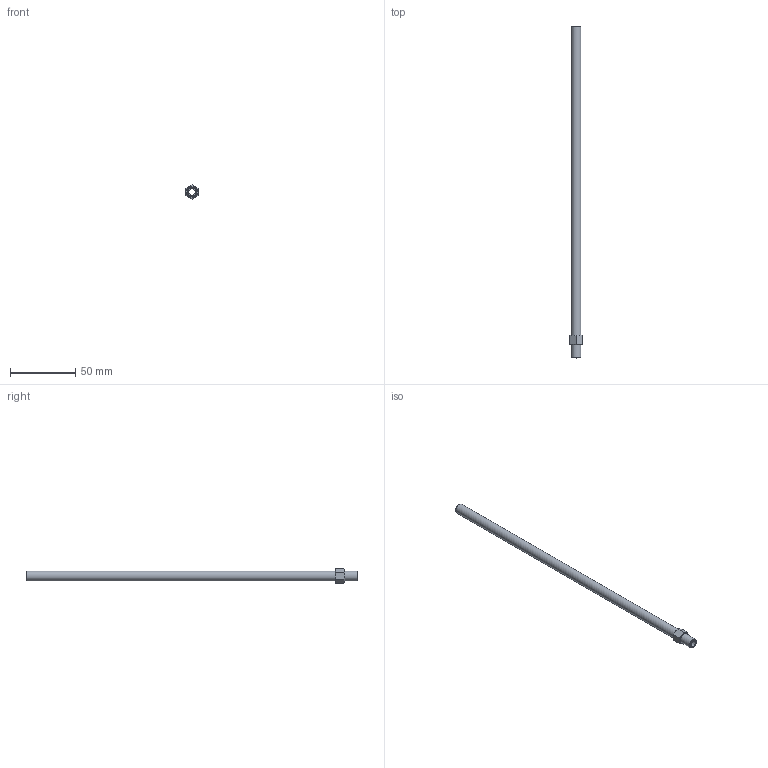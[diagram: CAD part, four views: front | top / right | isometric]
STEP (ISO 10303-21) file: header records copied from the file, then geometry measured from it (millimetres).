
FILE_DESCRIPTION(/* description */ (''),/* implementation_level */ '2;1');
FILE_NAME(/* name */ 'C:/Users/drich/Desktop/APN16-10 v1.step',/* time_stamp */ '2019-12-27T17:49:51-06:00',/* author */ (''),/* organization */ (''),/* preprocessor_version */ 'ST-DEVELOPER v18',/* originating_system */ 'Autodesk Translation Framework v8.12.0.6',/* authorisation */ '');
FILE_SCHEMA (('AUTOMOTIVE_DESIGN { 1 0 10303 214 3 1 1 }'));
Length unit declared in the file: inch
Products named in the file (1): APN16-10
Bounding box: 9.5 x 254 x 10.97 mm (x, y, z)
Volume: 7342.4 mm3; surface area: 10000.7 mm2
Topology: 1 solids, 1 shells, 17 faces, 39 edges, 26 vertices
Faces by surface type: plane 10, cone 4, cylinder 3
Full cylindrical faces by diameter (mm): 4.724 x1, 7.616 x2
Entity records: 521 total; most frequent: CARTESIAN_POINT 107, ORIENTED_EDGE 78, DIRECTION 77, EDGE_CURVE 39, AXIS2_PLACEMENT_3D 32, VERTEX_POINT 26, EDGE_LOOP 21, FACE_OUTER_BOUND 17
